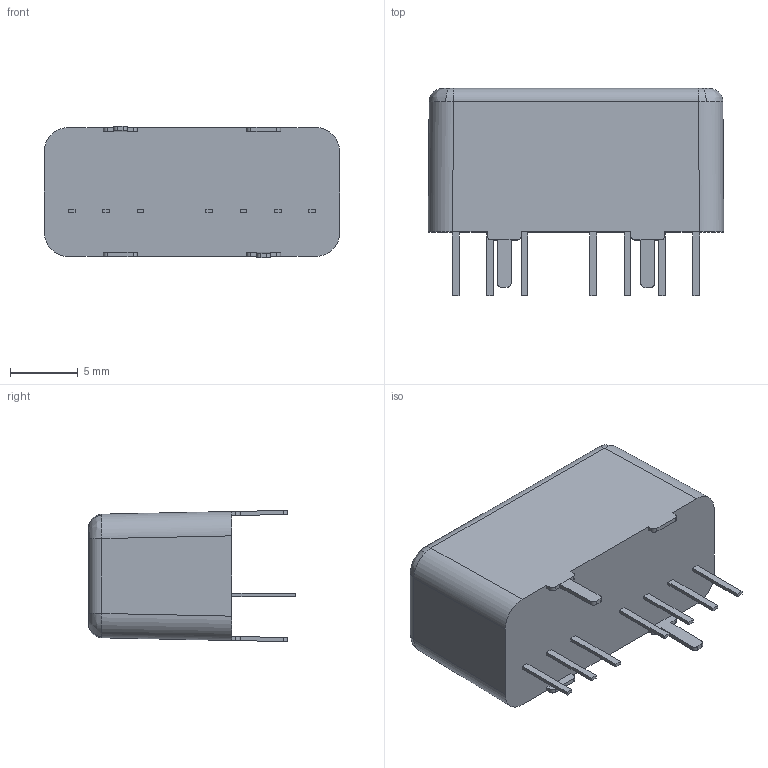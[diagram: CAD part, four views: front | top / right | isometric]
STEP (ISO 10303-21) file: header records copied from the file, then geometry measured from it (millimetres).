
FILE_DESCRIPTION (( 'STEP AP214' ), '1' );
FILE_NAME ('TMR 6-M.STEP', '2018-11-22T00:43:03', ( 'user' ), ( '' ), 'SwSTEP 2.0', 'SolidWorks 2016', '' );
FILE_SCHEMA (( 'AUTOMOTIVE_DESIGN' ));
Length unit declared in the file: millimetre
Products named in the file (1): TMR 6-M
Bounding box: 21.84 x 15.3 x 9.7 mm (x, y, z)
Volume: 2116.8 mm3; surface area: 1082.1 mm2
Topology: 1 solids, 1 shells, 103 faces, 266 edges, 172 vertices
Faces by surface type: plane 71, cylinder 20, bspline 12
Entity records: 3850 total; most frequent: CARTESIAN_POINT 826, ORIENTED_EDGE 532, DIRECTION 414, EDGE_CURVE 266, VECTOR 206, LINE 206, VERTEX_POINT 172, EDGE_LOOP 110
